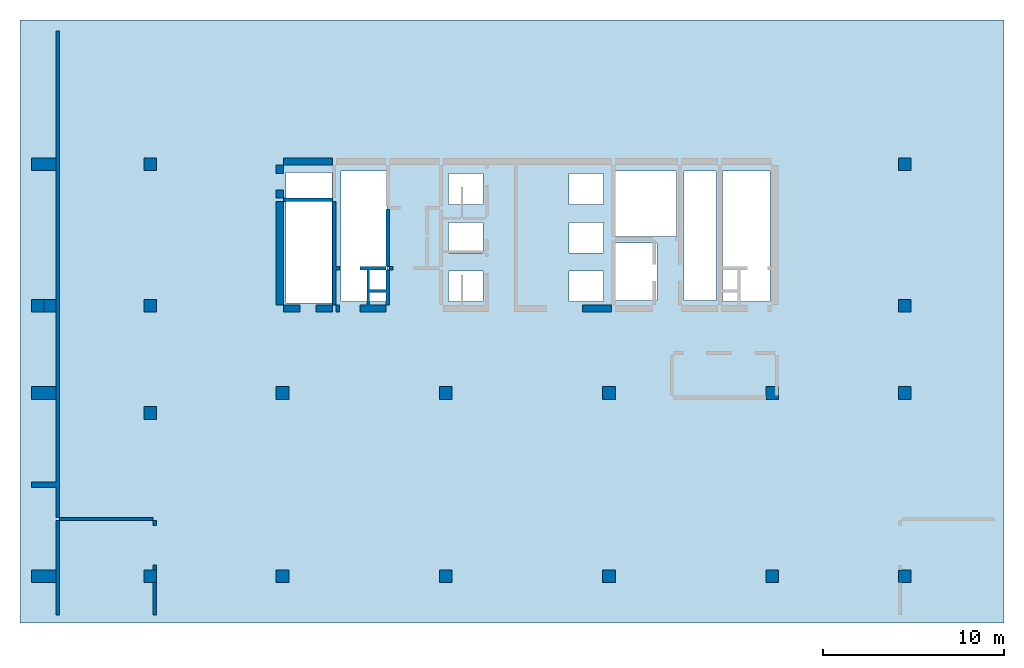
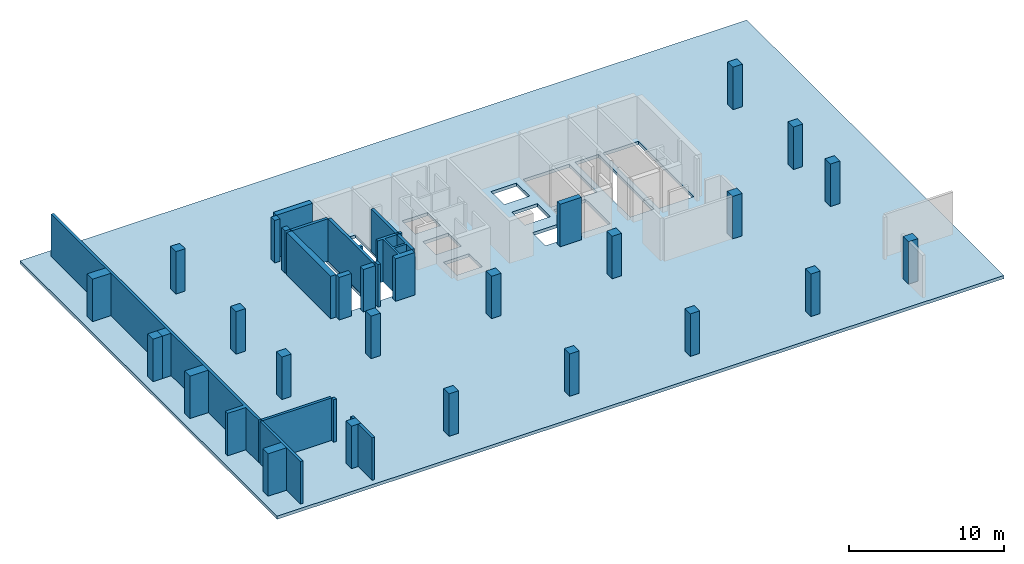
# One storey, part 1 of 2: 21 columns, 19 walls, 1 slab.
"""IFC4 building model written with IfcOpenShell, lengths in millimetres."""

import ifcopenshell
import ifcopenshell.guid

model = None  # the IFC model being written
_history = None  # IfcOwnerHistory: only IFC2X3 demands one
_inside = {}  # id of a spatial element -> (the spatial element, [elements in it])
_under = {}  # id of a project, library or spatial element -> (it, [spatial elements below it])
_declared = {}  # id of a project -> (the project, [libraries it declares])
_typed = {}  # id of a type object -> (the type object, [elements of that type])
_made_of = {}  # id of a material, layer set ... -> (it, [elements and type objects made of it])


def new_model(schema):
    """Start an empty IFC model of exactly this schema.

    Asked for "IFC4X3", IfcOpenShell would pick the latest addendum, in which some entities
    have other attributes; the version numbers below select the first issue.
    IFC2X3 requires an IfcOwnerHistory on every rooted entity: one is made here for all.
    """
    global model, _history
    if schema == "IFC4X3":
        model = ifcopenshell.file(schema_version=(4, 3, 0, 0))
    else:
        model = ifcopenshell.file(schema=schema)
    _inside.clear()
    _under.clear()
    _declared.clear()
    _typed.clear()
    _made_of.clear()
    _history = None
    if model.schema == "IFC2X3":
        org = make("IfcOrganization", Name="unknown")
        user = make(
            "IfcPersonAndOrganization",
            ThePerson=make("IfcPerson", FamilyName="unknown"),
            TheOrganization=org,
        )
        app = make(
            "IfcApplication",
            ApplicationDeveloper=org,
            Version="unknown",
            ApplicationFullName="unknown",
            ApplicationIdentifier="unknown",
        )
        _history = make(
            "IfcOwnerHistory",
            OwningUser=user,
            OwningApplication=app,
            ChangeAction="ADDED",
            CreationDate=0,
        )
    return model


def make(cls, **values):
    """One entity of the class cls with the attributes given. An attribute that is None is left unset."""
    return model.create_entity(
        cls, **{name: value for name, value in values.items() if value is not None}
    )


def rooted(cls, **values):
    """An entity with a GlobalId (a new one), such as an element, a storey or a relation."""
    return make(cls, GlobalId=ifcopenshell.guid.new(), OwnerHistory=_history, **values)


def si_unit(unit_type, name, prefix=None):
    """IfcSIUnit, for example si_unit("LENGTHUNIT", "METRE", prefix="MILLI")."""
    return make("IfcSIUnit", UnitType=unit_type, Prefix=prefix, Name=name)


def assignment(units):
    """IfcUnitAssignment: the units of a project."""
    return None if units is None else make("IfcUnitAssignment", Units=units)


def point(xyz):
    """IfcCartesianPoint."""
    return None if xyz is None else make("IfcCartesianPoint", Coordinates=xyz)


def direction(xyz):
    """IfcDirection."""
    return None if xyz is None else make("IfcDirection", DirectionRatios=xyz)


def frame(location, z_axis=None, x_axis=None):
    """IfcAxis2Placement3D, a coordinate frame: its origin and axes. An axis left out is left unset."""
    return make(
        "IfcAxis2Placement3D",
        Location=point(location),
        Axis=direction(z_axis),
        RefDirection=direction(x_axis),
    )


def origin():
    """The frame at (0, 0, 0) with its axes left unset."""
    return frame((0.0, 0.0, 0.0))


def place(relative_to, where):
    """IfcLocalPlacement: puts the frame where relative to a parent placement (None: the world)."""
    return make(
        "IfcLocalPlacement", PlacementRelTo=relative_to, RelativePlacement=where
    )


def context(
    kind, dimensions, precision=None, world=None, true_north=None, identifier=None
):
    """IfcGeometricRepresentationContext, for example the 3D "Model" context."""
    return make(
        "IfcGeometricRepresentationContext",
        ContextIdentifier=identifier,
        ContextType=kind,
        CoordinateSpaceDimension=dimensions,
        Precision=precision,
        WorldCoordinateSystem=world,
        TrueNorth=true_north,
    )


def project(units=None, contexts=None):
    """IfcProject with its units and contexts."""
    return rooted(
        "IfcProject",
        Name="project",
        RepresentationContexts=contexts,
        UnitsInContext=assignment(units),
    )


def spatial(cls, under=None, at=None, **own):
    """A site, building, storey or space (cls), placed at a placement, below another one or the project."""
    s = rooted(cls, ObjectPlacement=at, **own)
    if under is not None:
        _under.setdefault(under.id(), (under, []))[1].append(s)
    return s


def point_list(points):
    """IfcCartesianPointList2D or 3D."""
    cls = (
        "IfcCartesianPointList2D" if len(points[0]) == 2 else "IfcCartesianPointList3D"
    )
    return make(cls, CoordList=points)


def triangles(points, corners, closed=None, point_numbers=None):
    """IfcTriangulatedFaceSet: each triangle names its three corners, points numbered from 1."""
    return make(
        "IfcTriangulatedFaceSet",
        Coordinates=point_list(points),
        Closed=closed,
        CoordIndex=corners,
        PnIndex=point_numbers,
    )


def shape(context_of_items, identifier, shape_type, items):
    """IfcShapeRepresentation: the items that make up one representation, for example the "Body"."""
    return make(
        "IfcShapeRepresentation",
        ContextOfItems=context_of_items,
        RepresentationIdentifier=identifier,
        RepresentationType=shape_type,
        Items=items,
    )


def made_of(thing, what):
    """Note that an element or type object is made of a material, layer set ...; save() writes the relation."""
    if what is not None:
        _made_of.setdefault(what.id(), (what, []))[1].append(thing)
    return thing


def element(
    cls,
    number,
    at=None,
    inside=None,
    cuts=None,
    type_object=None,
    material=None,
    context=None,
    identifier="Body",
    shape_type=None,
    held_by="IfcProductDefinitionShape",
    body=None,
    shapes=None,
    **own,
):
    """One element of the class cls, such as IfcWall. Its Tag is "e" and its number.

    at: its placement. inside: the storey or other place that contains it. cuts: it is an
    opening in that element (IfcRelVoidsElement). A single representation is given by context,
    identifier, shape_type and body (its items); several are given by shapes. held_by: the class
    of the entity that holds the representations. save() writes the other relations.
    """
    e = rooted(cls, Tag="e%d" % number, ObjectPlacement=at, **own)
    if body is not None:
        shapes = [shape(context, identifier, shape_type, body)]
    if shapes is not None:
        e.Representation = make(held_by, Representations=shapes)
    if inside is not None:
        _inside.setdefault(inside.id(), (inside, []))[1].append(e)
    if cuts is not None:
        rooted(
            "IfcRelVoidsElement", RelatingBuildingElement=cuts, RelatedOpeningElement=e
        )
    if type_object is not None:
        _typed.setdefault(type_object.id(), (type_object, []))[1].append(e)
    return made_of(e, material)


def aggregate(whole, parts):
    """IfcRelAggregates: a whole, such as a stair, and the parts it consists of."""
    return rooted("IfcRelAggregates", RelatingObject=whole, RelatedObjects=parts)


def save(model, path):
    """Write the relations noted so far, then the file.

    IfcRelAggregates (storeys below a building ...), IfcRelContainedInSpatialStructure (elements
    in a storey), IfcRelDefinesByType, IfcRelAssociatesMaterial and IfcRelDeclares: one each for
    every whole, place, type object, material and project.
    """
    for whole, parts in _under.values():
        aggregate(whole, parts)
    for where, things in _inside.values():
        rooted(
            "IfcRelContainedInSpatialStructure",
            RelatedElements=things,
            RelatingStructure=where,
        )
    for kind, things in _typed.values():
        rooted("IfcRelDefinesByType", RelatedObjects=things, RelatingType=kind)
    for what, things in _made_of.values():
        rooted("IfcRelAssociatesMaterial", RelatedObjects=things, RelatingMaterial=what)
    for by, libraries in _declared.values():
        rooted("IfcRelDeclares", RelatingContext=by, RelatedDefinitions=libraries)
    model.write(path)


model = new_model("IFC4")

# Units and contexts
model_context = context("Model", 3, precision=0.001, world=origin())
ifc_project = project(units=[si_unit("LENGTHUNIT", "METRE", prefix="MILLI"), si_unit("AREAUNIT", "SQUARE_METRE"), si_unit("VOLUMEUNIT", "CUBIC_METRE")], contexts=[model_context])

# Site, building, storey
site_placement = place(None, origin())
site = spatial("IfcSite", under=ifc_project, at=site_placement, Name="Site", CompositionType="ELEMENT")
building_placement = place(site_placement, origin())
building = spatial("IfcBuilding", under=site, at=building_placement, Name="INNOCEAN", CompositionType="ELEMENT")
storey_placement = place(building_placement, frame((0.0, 0.0, -12600.0)))
storey = spatial("IfcBuildingStorey", under=building, at=storey_placement, Name="B3", CompositionType="ELEMENT", Elevation=-12600.0)

# Columns
column_1_placement = place(storey_placement, origin())
element("IfcColumn", 1, at=column_1_placement, inside=storey, Name="B3_Columns_B3_001", context=model_context, shape_type="Tessellation", body=[
    triangles([(40114.8, 2023.7, 0.0), (40114.8, 2023.7, 3350.0), (40114.8, 2722.3, 0.0), (40114.8, 2722.3, 3350.0), (40813.0, 2023.7, 3350.0), (40813.0, 2023.7, 0.0), (40813.0, 2722.3, 0.0), (40813.0, 2722.3, 3350.0)], [[1, 2, 3], [3, 2, 4], [5, 6, 7], [5, 7, 8], [6, 5, 1], [1, 5, 2], [8, 7, 3], [8, 3, 4], [3, 7, 1], [1, 7, 6], [8, 4, 2], [8, 2, 5]], closed=True),
])
column_2_placement = place(storey_placement, origin())
element("IfcColumn", 2, at=column_2_placement, inside=storey, Name="B3_Columns_B3_002", context=model_context, shape_type="Tessellation", body=[
    triangles([(5843.1, 24721.0, 0.0), (5843.1, 24721.0, 3350.0), (5843.1, 25419.5, 0.0), (5843.1, 25419.5, 3350.0), (6541.2, 24721.0, 3350.0), (6541.2, 24721.0, 0.0), (6541.2, 25419.5, 0.0), (6541.2, 25419.5, 3350.0)], [[1, 2, 3], [3, 2, 4], [5, 6, 7], [5, 7, 8], [6, 5, 1], [1, 5, 2], [8, 7, 3], [8, 3, 4], [1, 3, 6], [3, 7, 6], [4, 2, 5], [8, 4, 5]], closed=True),
])
column_3_placement = place(storey_placement, origin())
element("IfcColumn", 3, at=column_3_placement, inside=storey, Name="B3_Columns_B3_003", context=model_context, shape_type="Tessellation", body=[
    triangles([(5843.1, 16922.4, 0.0), (5843.1, 16922.4, 3350.0), (5843.1, 17620.9, 0.0), (5843.1, 17620.9, 3350.0), (6541.2, 16922.4, 3350.0), (6541.2, 16922.4, 0.0), (6541.2, 17620.9, 0.0), (6541.2, 17620.9, 3350.0)], [[1, 2, 3], [3, 2, 4], [5, 6, 7], [5, 7, 8], [6, 5, 1], [1, 5, 2], [8, 7, 3], [8, 3, 4], [1, 3, 6], [3, 7, 6], [4, 2, 5], [8, 4, 5]], closed=True),
])
column_4_placement = place(storey_placement, origin())
element("IfcColumn", 4, at=column_4_placement, inside=storey, Name="B3_Columns_B3_004", context=model_context, shape_type="Tessellation", body=[
    triangles([(47413.4, 24721.0, 0.0), (47413.4, 24721.0, 3350.0), (47413.4, 25419.5, 0.0), (47413.4, 25419.5, 3350.0), (48111.6, 24721.0, 3350.0), (48111.6, 24721.0, 0.0), (48111.6, 25419.5, 0.0), (48111.6, 25419.5, 3350.0)], [[1, 2, 3], [3, 2, 4], [5, 6, 7], [5, 7, 8], [6, 5, 1], [1, 5, 2], [8, 7, 3], [8, 3, 4], [1, 3, 6], [3, 7, 6], [4, 2, 5], [8, 4, 5]], closed=True),
])
column_5_placement = place(storey_placement, origin())
element("IfcColumn", 5, at=column_5_placement, inside=storey, Name="B3_Columns_B3_005", context=model_context, shape_type="Tessellation", body=[
    triangles([(47413.4, 16922.4, 0.0), (47413.4, 16922.4, 3350.0), (47413.4, 17620.9, 0.0), (47413.4, 17620.9, 3350.0), (48111.6, 16922.4, 3350.0), (48111.6, 16922.4, 0.0), (48111.6, 17620.9, 0.0), (48111.6, 17620.9, 3350.0)], [[1, 2, 3], [3, 2, 4], [5, 6, 7], [5, 7, 8], [6, 5, 1], [1, 5, 2], [8, 7, 3], [8, 3, 4], [1, 3, 6], [3, 7, 6], [4, 2, 5], [8, 4, 5]], closed=True),
])
column_6_placement = place(storey_placement, origin())
element("IfcColumn", 6, at=column_6_placement, inside=storey, Name="B3_Columns_B3_006", context=model_context, shape_type="Tessellation", body=[
    triangles([(13129.0, 2023.7, 0.0), (13129.0, 2023.7, 3350.0), (13129.0, 2722.3, 0.0), (13129.0, 2722.3, 3350.0), (13827.2, 2023.7, 3350.0), (13827.2, 2023.7, 0.0), (13827.2, 2722.3, 0.0), (13827.2, 2722.3, 3350.0)], [[1, 2, 3], [3, 2, 4], [5, 6, 7], [5, 7, 8], [6, 5, 1], [1, 5, 2], [8, 7, 3], [8, 3, 4], [3, 7, 1], [1, 7, 6], [8, 4, 2], [8, 2, 5]], closed=True),
])
column_7_placement = place(storey_placement, origin())
element("IfcColumn", 7, at=column_7_placement, inside=storey, Name="B3_Columns_B3_007", context=model_context, shape_type="Tessellation", body=[
    triangles([(47413.4, 2023.7, 0.0), (47413.4, 2023.7, 3350.0), (47413.4, 2722.3, 0.0), (47413.4, 2722.3, 3350.0), (48111.6, 2023.7, 3350.0), (48111.6, 2023.7, 0.0), (48111.6, 2722.3, 0.0), (48111.6, 2722.3, 3350.0)], [[1, 2, 3], [3, 2, 4], [5, 6, 7], [5, 7, 8], [6, 5, 1], [1, 5, 2], [8, 7, 3], [8, 3, 4], [3, 7, 1], [1, 7, 6], [8, 4, 2], [8, 2, 5]], closed=True),
])
column_8_placement = place(storey_placement, origin())
element("IfcColumn", 8, at=column_8_placement, inside=storey, Name="B3_Columns_B3_008", context=model_context, shape_type="Tessellation", body=[
    triangles([(13129.0, 12121.3, 0.0), (13129.0, 12121.3, 3350.0), (13129.0, 12819.8, 0.0), (13129.0, 12819.8, 3350.0), (13827.2, 12121.3, 3350.0), (13827.2, 12121.3, 0.0), (13827.2, 12819.8, 0.0), (13827.2, 12819.8, 3350.0)], [[1, 2, 3], [3, 2, 4], [5, 6, 7], [5, 7, 8], [6, 5, 1], [1, 5, 2], [8, 7, 3], [8, 3, 4], [3, 7, 1], [1, 7, 6], [8, 4, 2], [8, 2, 5]], closed=True),
])
column_9_placement = place(storey_placement, origin())
element("IfcColumn", 9, at=column_9_placement, inside=storey, Name="B3_Columns_B3_009", context=model_context, shape_type="Tessellation", body=[
    triangles([(5843.1, 11016.3, 0.0), (5843.1, 11016.3, 3350.0), (5843.1, 11727.5, 0.0), (5843.1, 11727.5, 3350.0), (6541.2, 11016.3, 3350.0), (6541.2, 11016.3, 0.0), (6541.2, 11727.5, 0.0), (6541.2, 11727.5, 3350.0)], [[1, 2, 3], [3, 2, 4], [5, 6, 7], [5, 7, 8], [6, 5, 1], [1, 5, 2], [8, 7, 3], [8, 3, 4], [3, 7, 1], [1, 7, 6], [8, 4, 2], [8, 2, 5]], closed=True),
])
column_10_placement = place(storey_placement, origin())
element("IfcColumn", 10, at=column_10_placement, inside=storey, Name="B3_Columns_B3_010", context=model_context, shape_type="Tessellation", body=[
    triangles([(40114.8, 12121.3, 0.0), (40114.8, 12121.3, 3350.0), (40114.8, 12819.8, 0.0), (40114.8, 12819.8, 3350.0), (40813.0, 12121.3, 3350.0), (40813.0, 12121.3, 0.0), (40813.0, 12819.8, 0.0), (40813.0, 12819.8, 3350.0)], [[1, 2, 3], [3, 2, 4], [5, 6, 7], [5, 7, 8], [6, 5, 1], [1, 5, 2], [8, 7, 3], [8, 3, 4], [1, 3, 6], [3, 7, 6], [4, 2, 5], [8, 4, 5]], closed=True),
])
column_11_placement = place(storey_placement, origin())
element("IfcColumn", 11, at=column_11_placement, inside=storey, Name="B3_Columns_B3_011", context=model_context, shape_type="Tessellation", body=[
    triangles([(47413.4, 12121.3, 0.0), (47413.4, 12121.3, 3350.0), (47413.4, 12819.8, 0.0), (47413.4, 12819.8, 3350.0), (48111.6, 12121.3, 3350.0), (48111.6, 12121.3, 0.0), (48111.6, 12819.8, 0.0), (48111.6, 12819.8, 3350.0)], [[1, 2, 3], [3, 2, 4], [5, 6, 7], [5, 7, 8], [6, 5, 1], [1, 5, 2], [8, 7, 3], [8, 3, 4], [1, 3, 6], [3, 7, 6], [4, 2, 5], [8, 4, 5]], closed=True),
])
column_12_placement = place(storey_placement, origin())
element("IfcColumn", 12, at=column_12_placement, inside=storey, Name="B3_Columns_B3_012", context=model_context, shape_type="Tessellation", body=[
    triangles([(5843.1, 2023.7, 0.0), (5843.1, 2023.7, 3350.0), (5843.1, 2722.3, 0.0), (5843.1, 2722.3, 3350.0), (6541.2, 2023.7, 3350.0), (6541.2, 2023.7, 0.0), (6541.2, 2722.3, 0.0), (6541.2, 2722.3, 3350.0)], [[1, 2, 3], [3, 2, 4], [5, 6, 7], [5, 7, 8], [6, 5, 1], [1, 5, 2], [8, 7, 3], [8, 3, 4], [1, 3, 6], [3, 7, 6], [4, 2, 5], [8, 4, 5]], closed=True),
])
column_13_placement = place(storey_placement, origin())
element("IfcColumn", 13, at=column_13_placement, inside=storey, Name="B3_Columns_B3_013", context=model_context, shape_type="Tessellation", body=[
    triangles([(-363.9, 2023.7, 0.0), (-363.9, 2023.7, 3350.0), (-363.9, 2722.3, 0.0), (-363.9, 2722.3, 3350.0), (994.3, 2023.7, 3350.0), (994.3, 2023.7, 0.0), (994.3, 2722.3, 0.0), (994.3, 2722.3, 3350.0)], [[1, 2, 3], [3, 2, 4], [5, 6, 7], [5, 7, 8], [6, 5, 1], [1, 5, 2], [8, 7, 3], [8, 3, 4], [3, 7, 1], [1, 7, 6], [8, 4, 2], [8, 2, 5]], closed=True),
])
column_14_placement = place(storey_placement, origin())
element("IfcColumn", 14, at=column_14_placement, inside=storey, Name="B3_Columns_B3_014", context=model_context, shape_type="Tessellation", body=[
    triangles([(31128.0, 12121.3, 0.0), (31128.0, 12121.3, 3350.0), (31128.0, 12819.8, 0.0), (31128.0, 12819.8, 3350.0), (31826.2, 12121.3, 3350.0), (31826.2, 12121.3, 0.0), (31826.2, 12819.8, 0.0), (31826.2, 12819.8, 3350.0)], [[1, 2, 3], [3, 2, 4], [5, 6, 7], [5, 7, 8], [6, 5, 1], [1, 5, 2], [8, 7, 3], [8, 3, 4], [3, 7, 1], [1, 7, 6], [8, 4, 2], [8, 2, 5]], closed=True),
])
column_15_placement = place(storey_placement, origin())
element("IfcColumn", 15, at=column_15_placement, inside=storey, Name="B3_Columns_B3_015", context=model_context, shape_type="Tessellation", body=[
    triangles([(22128.5, 12121.3, 0.0), (22128.5, 12121.3, 3350.0), (22128.5, 12819.8, 0.0), (22128.5, 12819.8, 3350.0), (22826.7, 12121.3, 3350.0), (22826.7, 12121.3, 0.0), (22826.7, 12819.8, 0.0), (22826.7, 12819.8, 3350.0)], [[1, 2, 3], [3, 2, 4], [5, 6, 7], [5, 7, 8], [6, 5, 1], [1, 5, 2], [8, 7, 3], [8, 3, 4], [3, 7, 1], [1, 7, 6], [8, 4, 2], [8, 2, 5]], closed=True),
])
column_16_placement = place(storey_placement, origin())
element("IfcColumn", 16, at=column_16_placement, inside=storey, Name="B3_Columns_B3_016", context=model_context, shape_type="Tessellation", body=[
    triangles([(31128.0, 2023.7, 0.0), (31128.0, 2023.7, 3350.0), (31128.0, 2722.3, 0.0), (31128.0, 2722.3, 3350.0), (31826.2, 2023.7, 3350.0), (31826.2, 2023.7, 0.0), (31826.2, 2722.3, 0.0), (31826.2, 2722.3, 3350.0)], [[1, 2, 3], [3, 2, 4], [5, 6, 7], [5, 7, 8], [6, 5, 1], [1, 5, 2], [8, 7, 3], [8, 3, 4], [3, 7, 1], [1, 7, 6], [8, 4, 2], [8, 2, 5]], closed=True),
])
column_17_placement = place(storey_placement, origin())
element("IfcColumn", 17, at=column_17_placement, inside=storey, Name="B3_Columns_B3_017", context=model_context, shape_type="Tessellation", body=[
    triangles([(22128.5, 2023.7, 0.0), (22128.5, 2023.7, 3350.0), (22128.5, 2722.3, 0.0), (22128.5, 2722.3, 3350.0), (22826.7, 2023.7, 3350.0), (22826.7, 2023.7, 0.0), (22826.7, 2722.3, 0.0), (22826.7, 2722.3, 3350.0)], [[1, 2, 3], [3, 2, 4], [5, 6, 7], [5, 7, 8], [6, 5, 1], [1, 5, 2], [8, 7, 3], [8, 3, 4], [3, 7, 1], [1, 7, 6], [8, 4, 2], [8, 2, 5]], closed=True),
])
column_18_placement = place(storey_placement, origin())
element("IfcColumn", 18, at=column_18_placement, inside=storey, Name="B3_Columns_B3_018", context=model_context, shape_type="Tessellation", body=[
    triangles([(-363.9, 16922.4, 0.0), (-363.9, 16922.4, 3350.0), (-363.9, 17620.9, 0.0), (-363.9, 17620.9, 3350.0), (994.3, 16922.4, 3350.0), (994.3, 16922.4, 0.0), (994.3, 17620.9, 0.0), (994.3, 17620.9, 3350.0)], [[1, 2, 3], [3, 2, 4], [5, 6, 7], [5, 7, 8], [6, 5, 1], [1, 5, 2], [8, 7, 3], [8, 3, 4], [3, 7, 1], [1, 7, 6], [8, 4, 2], [8, 2, 5]], closed=True),
])
column_19_placement = place(storey_placement, origin())
element("IfcColumn", 19, at=column_19_placement, inside=storey, Name="B3_Columns_B3_019", context=model_context, shape_type="Tessellation", body=[
    triangles([(-363.9, 24721.0, 0.0), (-363.9, 24721.0, 3350.0), (-363.9, 25419.5, 0.0), (-363.9, 25419.5, 3350.0), (994.3, 24721.0, 3350.0), (994.3, 24721.0, 0.0), (994.3, 25419.5, 0.0), (994.3, 25419.5, 3350.0)], [[1, 2, 3], [3, 2, 4], [5, 6, 7], [5, 7, 8], [6, 5, 1], [1, 5, 2], [8, 7, 3], [8, 3, 4], [3, 7, 1], [1, 7, 6], [8, 4, 2], [8, 2, 5]], closed=True),
])
column_20_placement = place(storey_placement, origin())
element("IfcColumn", 20, at=column_20_placement, inside=storey, Name="B3_Columns_B3_020", context=model_context, shape_type="Tessellation", body=[
    triangles([(-363.9, 12121.3, 0.0), (-363.9, 12121.3, 3350.0), (-363.9, 12819.8, 0.0), (-363.9, 12819.8, 3350.0), (994.3, 12121.3, 3350.0), (994.3, 12121.3, 0.0), (994.3, 12819.8, 0.0), (994.3, 12819.8, 3350.0)], [[1, 2, 3], [3, 2, 4], [5, 6, 7], [5, 7, 8], [6, 5, 1], [1, 5, 2], [8, 7, 3], [8, 3, 4], [3, 7, 1], [1, 7, 6], [8, 4, 2], [8, 2, 5]], closed=True),
])
column_21_placement = place(storey_placement, origin())
element("IfcColumn", 21, at=column_21_placement, inside=storey, Name="B3_Columns_B3_021", context=model_context, shape_type="Tessellation", body=[
    triangles([(-363.9, 16922.4, 0.0), (-363.9, 16922.4, 3350.0), (-363.9, 17620.9, 0.0), (-363.9, 17620.9, 3350.0), (334.3, 16922.4, 3350.0), (334.3, 16922.4, 0.0), (334.3, 17620.9, 0.0), (334.3, 17620.9, 3350.0)], [[1, 2, 3], [3, 2, 4], [5, 6, 7], [5, 7, 8], [6, 5, 1], [1, 5, 2], [8, 7, 3], [8, 3, 4], [3, 7, 1], [1, 7, 6], [8, 4, 2], [8, 2, 5]], closed=True),
])

# Slab
slab_placement = place(storey_placement, origin())
element("IfcSlab", 22, at=slab_placement, inside=storey, Name="B3_Slab_B3_001", context=model_context, shape_type="Tessellation", body=[
    triangles([(-987.250996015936, 33023.3766233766, 0.0), (53241.0358565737, 33023.3766233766, 0.0), (-987.250996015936, 33023.3766233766, -250.0), (53241.0358565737, 33023.3766233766, -250.0), (-987.250996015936, -211.688311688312, 0.0), (-987.250996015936, -211.688311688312, -250.0), (53241.0358565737, -211.688311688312, 0.0), (53241.0358565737, -211.688311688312, -250.0), (34130.6772908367, 20745.4545454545, -250.0), (31733.0677290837, 20745.4545454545, 0.0), (31733.0677290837, 20745.4545454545, -250.0), (34130.6772908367, 20745.4545454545, 0.0), (31733.0677290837, 17570.1298701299, 0.0), (31733.0677290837, 17570.1298701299, -250.0), (34130.6772908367, 17570.1298701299, 0.0), (34130.6772908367, 17570.1298701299, -250.0), (31168.9243027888, 19193.0735930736, 0.0), (29264.9402390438, 19193.0735930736, 0.0), (29264.9402390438, 19193.0735930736, -250.0), (31168.9243027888, 19193.0735930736, -250.0), (31168.9243027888, 17499.5670995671, 0.0), (31168.9243027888, 17499.5670995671, -250.0), (29264.9402390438, 17499.5670995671, 0.0), (29264.9402390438, 17499.5670995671, -250.0), (31168.9243027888, 21874.4588744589, 0.0), (29264.9402390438, 21874.4588744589, 0.0), (29264.9402390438, 21874.4588744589, -250.0), (31168.9243027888, 21874.4588744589, -250.0), (29264.9402390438, 20180.9523809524, 0.0), (29264.9402390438, 20180.9523809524, -250.0), (31168.9243027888, 20180.9523809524, 0.0), (31168.9243027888, 20180.9523809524, -250.0), (24540.2390438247, 19193.0735930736, -250.0), (22636.2549800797, 19193.0735930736, 0.0), (22636.2549800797, 19193.0735930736, -250.0), (24540.2390438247, 19193.0735930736, 0.0), (22636.2549800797, 17499.5670995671, 0.0), (22636.2549800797, 17499.5670995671, -250.0), (24540.2390438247, 17499.5670995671, 0.0), (24540.2390438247, 17499.5670995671, -250.0), (24540.2390438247, 21874.4588744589, -250.0), (22636.2549800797, 21874.4588744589, 0.0), (22636.2549800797, 21874.4588744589, -250.0), (24540.2390438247, 21874.4588744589, 0.0), (22636.2549800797, 20180.9523809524, 0.0), (22636.2549800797, 20180.9523809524, -250.0), (24540.2390438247, 20180.9523809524, 0.0), (24540.2390438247, 20180.9523809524, -250.0), (16219.1235059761, 24626.4069264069, 0.0), (13680.4780876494, 24626.4069264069, 0.0), (13680.4780876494, 24626.4069264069, -250.0), (16219.1235059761, 24626.4069264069, -250.0), (13680.4780876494, 17429.0043290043, 0.0), (13680.4780876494, 17429.0043290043, -250.0), (16219.1235059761, 17429.0043290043, 0.0), (16219.1235059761, 17429.0043290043, -250.0), (40336.2549800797, 24696.9696969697, -250.0), (37727.0916334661, 24696.9696969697, 0.0), (37727.0916334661, 24696.9696969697, -250.0), (40336.2549800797, 24696.9696969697, 0.0), (37727.0916334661, 17499.5670995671, 0.0), (37727.0916334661, 17499.5670995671, -250.0), (40336.2549800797, 17499.5670995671, 0.0), (40336.2549800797, 17499.5670995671, -250.0), (37374.5019920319, 24696.9696969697, 0.0), (35611.5537848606, 24696.9696969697, 0.0), (35611.5537848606, 24696.9696969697, -250.0), (37374.5019920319, 24696.9696969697, -250.0), (35611.5537848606, 17570.1298701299, 0.0), (35611.5537848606, 17570.1298701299, -250.0), (37374.5019920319, 17570.1298701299, 0.0), (37374.5019920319, 17570.1298701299, -250.0), (35188.4462151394, 24696.9696969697, 0.0), (31733.0677290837, 24696.9696969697, 0.0), (31733.0677290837, 24696.9696969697, -250.0), (35188.4462151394, 24696.9696969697, -250.0), (31733.0677290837, 21098.2683982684, 0.0), (31733.0677290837, 21098.2683982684, -250.0), (35188.4462151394, 21098.2683982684, 0.0), (35188.4462151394, 21098.2683982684, -250.0), (31168.9243027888, 24555.8441558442, 0.0), (29264.9402390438, 24555.8441558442, 0.0), (29264.9402390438, 24555.8441558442, -250.0), (31168.9243027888, 24555.8441558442, -250.0), (29264.9402390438, 22862.3376623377, 0.0), (29264.9402390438, 22862.3376623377, -250.0), (31168.9243027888, 22862.3376623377, 0.0), (31168.9243027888, 22862.3376623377, -250.0), (19251.3944223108, 24696.9696969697, 0.0), (16712.7490039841, 24696.9696969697, 0.0), (16712.7490039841, 24696.9696969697, -250.0), (19251.3944223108, 24696.9696969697, -250.0), (16712.7490039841, 17499.5670995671, 0.0), (16712.7490039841, 17499.5670995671, -250.0), (19251.3944223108, 17499.5670995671, 0.0), (19251.3944223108, 17499.5670995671, -250.0), (24540.2390438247, 24555.8441558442, -250.0), (22636.2549800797, 24555.8441558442, 0.0), (22636.2549800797, 24555.8441558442, -250.0), (24540.2390438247, 24555.8441558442, 0.0), (22636.2549800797, 22862.3376623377, 0.0), (22636.2549800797, 22862.3376623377, -250.0), (24540.2390438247, 22862.3376623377, 0.0), (24540.2390438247, 22862.3376623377, -250.0)], [[1, 2, 3], [3, 2, 4], [5, 1, 6], [6, 1, 3], [2, 7, 4], [4, 7, 8], [7, 5, 8], [8, 5, 6], [9, 10, 11], [12, 10, 9], [10, 13, 14], [10, 14, 11], [15, 12, 9], [15, 9, 16], [14, 15, 16], [13, 15, 14], [17, 18, 19], [17, 19, 20], [21, 17, 20], [21, 20, 22], [23, 21, 22], [23, 22, 24], [18, 23, 24], [18, 24, 19], [25, 26, 27], [25, 27, 28], [26, 29, 30], [26, 30, 27], [31, 25, 28], [31, 28, 32], [29, 31, 32], [29, 32, 30], [33, 34, 35], [36, 34, 33], [34, 37, 38], [34, 38, 35], [39, 36, 33], [39, 33, 40], [38, 39, 40], [37, 39, 38], [41, 42, 43], [44, 42, 41], [42, 45, 46], [42, 46, 43], [47, 44, 41], [47, 41, 48], [46, 47, 48], [45, 47, 46], [49, 50, 51], [49, 51, 52], [50, 53, 54], [50, 54, 51], [55, 49, 52], [55, 52, 56], [53, 55, 56], [53, 56, 54], [57, 58, 59], [60, 58, 57], [58, 61, 62], [58, 62, 59], [63, 60, 57], [63, 57, 64], [62, 63, 64], [61, 63, 62], [65, 66, 67], [65, 67, 68], [66, 69, 70], [66, 70, 67], [71, 65, 68], [71, 68, 72], [69, 71, 72], [69, 72, 70], [73, 74, 75], [73, 75, 76], [74, 77, 78], [74, 78, 75], [79, 73, 76], [79, 76, 80], [77, 79, 80], [77, 80, 78], [81, 82, 83], [81, 83, 84], [82, 85, 86], [82, 86, 83], [87, 81, 84], [87, 84, 88], [85, 87, 88], [85, 88, 86], [89, 90, 91], [89, 91, 92], [90, 93, 94], [90, 94, 91], [95, 89, 92], [95, 92, 96], [93, 95, 96], [93, 96, 94], [97, 98, 99], [100, 98, 97], [98, 101, 102], [98, 102, 99], [103, 100, 97], [103, 97, 104], [102, 103, 104], [101, 103, 102], [63, 61, 7], [7, 2, 63], [71, 69, 61], [61, 69, 7], [69, 15, 7], [2, 60, 63], [13, 21, 15], [15, 21, 7], [79, 12, 69], [69, 12, 15], [2, 58, 60], [2, 65, 58], [13, 17, 21], [21, 23, 7], [17, 10, 31], [2, 66, 65], [12, 77, 10], [10, 77, 31], [2, 73, 66], [66, 73, 79], [31, 18, 17], [77, 25, 31], [31, 29, 18], [77, 87, 25], [23, 39, 7], [2, 74, 73], [74, 81, 87], [87, 85, 25], [25, 85, 26], [23, 36, 39], [18, 36, 23], [74, 82, 81], [29, 47, 18], [18, 47, 36], [26, 44, 29], [29, 44, 47], [47, 45, 36], [36, 45, 34], [34, 95, 37], [45, 95, 34], [85, 103, 26], [26, 103, 44], [82, 103, 85], [45, 42, 95], [103, 42, 44], [82, 100, 103], [103, 101, 42], [39, 5, 7], [37, 5, 39], [95, 5, 37], [95, 55, 5], [93, 55, 95], [55, 53, 5], [101, 89, 42], [42, 89, 95], [98, 89, 101], [90, 49, 93], [93, 49, 55], [90, 50, 49], [50, 1, 53], [89, 1, 90], [53, 1, 5], [90, 1, 50], [2, 1, 74], [74, 1, 82], [82, 1, 100], [100, 1, 98], [98, 1, 89], [13, 10, 17], [69, 66, 79], [65, 71, 58], [58, 71, 61], [77, 74, 87], [79, 77, 12], [62, 64, 8], [4, 8, 64], [70, 72, 62], [70, 62, 8], [16, 70, 8], [57, 4, 64], [22, 14, 16], [22, 16, 8], [9, 80, 70], [9, 70, 16], [59, 4, 57], [68, 4, 59], [20, 14, 22], [24, 22, 8], [11, 20, 32], [67, 4, 68], [78, 9, 11], [78, 11, 32], [76, 4, 67], [76, 67, 80], [19, 32, 20], [28, 78, 32], [30, 32, 19], [88, 78, 28], [40, 24, 8], [75, 4, 76], [84, 75, 88], [86, 88, 28], [86, 28, 27], [33, 24, 40], [33, 19, 24], [83, 75, 84], [48, 30, 19], [48, 19, 33], [41, 27, 30], [41, 30, 48], [46, 48, 33], [46, 33, 35], [96, 35, 38], [96, 46, 35], [104, 86, 27], [104, 27, 41], [104, 83, 86], [43, 46, 96], [43, 104, 41], [97, 83, 104], [102, 104, 43], [6, 40, 8], [6, 38, 40], [6, 96, 38], [56, 96, 6], [56, 94, 96], [54, 56, 6], [92, 102, 43], [92, 43, 96], [92, 99, 102], [52, 91, 94], [52, 94, 56], [51, 91, 52], [3, 51, 54], [3, 92, 91], [3, 54, 6], [3, 91, 51], [3, 4, 75], [3, 75, 83], [3, 83, 97], [3, 97, 99], [3, 99, 92], [11, 14, 20], [67, 70, 80], [72, 68, 59], [72, 59, 62], [75, 78, 88], [78, 80, 9]], closed=True),
])

# Walls
wall_1_placement = place(storey_placement, origin())
element("IfcWall", 23, at=wall_1_placement, inside=storey, Name="B3_Walls_B3_001", context=model_context, shape_type="Tessellation", body=[
    triangles([(6338.1, 2023.7, 0.0), (6338.1, 220.2, 0.0), (6338.1, 220.2, 3350.0), (6338.1, 2023.7, 3350.0), (6541.2, 2023.7, 0.0), (6541.2, 2023.7, 3350.0), (6541.2, 220.2, 0.0), (6541.2, 220.2, 3350.0)], [[1, 2, 3], [1, 3, 4], [5, 1, 4], [5, 4, 6], [7, 5, 6], [7, 6, 8], [2, 7, 8], [2, 8, 3], [1, 5, 7], [1, 7, 2], [6, 4, 8], [8, 4, 3]], closed=True),
])
wall_2_placement = place(storey_placement, origin())
element("IfcWall", 24, at=wall_2_placement, inside=storey, Name="B3_Walls_B3_002", context=model_context, shape_type="Tessellation", body=[
    triangles([(1184.7, 220.2, 0.0), (1184.7, 5427.7, 0.0), (1184.7, 5427.7, 3350.0), (1184.7, 220.2, 3350.0), (994.3, 220.2, 0.0), (994.3, 220.2, 3350.0), (994.3, 5427.7, 0.0), (994.3, 5427.7, 3350.0)], [[1, 2, 3], [1, 3, 4], [5, 1, 4], [5, 4, 6], [7, 5, 6], [7, 6, 8], [2, 7, 8], [2, 8, 3], [7, 2, 1], [7, 1, 5], [3, 8, 4], [4, 8, 6]], closed=True),
])
wall_3_placement = place(storey_placement, origin())
element("IfcWall", 25, at=wall_3_placement, inside=storey, Name="B3_Walls_B3_003", context=model_context, shape_type="Tessellation", body=[
    triangles([(6338.1, 2976.3, 0.0), (6338.1, 2722.3, 0.0), (6338.1, 2722.3, 3350.0), (6338.1, 2976.3, 3350.0), (6541.2, 2976.3, 0.0), (6541.2, 2976.3, 3350.0), (6541.2, 2722.3, 0.0), (6541.2, 2722.3, 3350.0)], [[1, 2, 3], [1, 3, 4], [5, 1, 4], [5, 4, 6], [7, 5, 6], [7, 6, 8], [2, 7, 8], [2, 8, 3], [5, 7, 2], [1, 5, 2], [8, 6, 3], [6, 4, 3]], closed=True),
])
wall_4_placement = place(storey_placement, origin())
element("IfcWall", 26, at=wall_4_placement, inside=storey, Name="B3_Walls_B3_004", context=model_context, shape_type="Tessellation", body=[
    triangles([(6541.2, 5173.7, 0.0), (6541.2, 5427.7, 0.0), (6541.2, 5427.7, 3350.0), (6541.2, 5173.7, 3350.0), (6338.1, 5173.7, 0.0), (6338.1, 5173.7, 3350.0), (6338.1, 5427.7, 0.0), (6338.1, 5427.7, 3350.0)], [[1, 2, 3], [1, 3, 4], [5, 1, 4], [5, 4, 6], [7, 5, 6], [7, 6, 8], [2, 7, 8], [2, 8, 3], [2, 1, 5], [7, 2, 5], [4, 3, 6], [3, 8, 6]], closed=True),
])
wall_5_placement = place(storey_placement, origin())
element("IfcWall", 27, at=wall_5_placement, inside=storey, Name="B3_Walls_B3_005", context=model_context, shape_type="Tessellation", body=[
    triangles([(6338.1, 5427.7, 0.0), (6338.1, 5618.2, 0.0), (6338.1, 5618.2, 3350.0), (6338.1, 5427.7, 3350.0), (1184.7, 5427.7, 0.0), (1184.7, 5427.7, 3350.0), (1184.7, 5618.2, 0.0), (1184.7, 5618.2, 3350.0)], [[1, 2, 3], [1, 3, 4], [5, 1, 4], [5, 4, 6], [7, 5, 6], [7, 6, 8], [2, 7, 8], [2, 8, 3], [7, 2, 1], [7, 1, 5], [3, 8, 4], [4, 8, 6]], closed=True),
])
wall_6_placement = place(storey_placement, origin())
element("IfcWall", 28, at=wall_6_placement, inside=storey, Name="B3_Walls_B3_006", context=model_context, shape_type="Tessellation", body=[
    triangles([(994.3, 7575.0, 0.0), (-365.0, 7575.0, 0.0), (-365.0, 7575.0, 3350.0), (994.3, 7575.0, 3350.0), (994.3, 32417.9, 0.0), (994.3, 32417.9, 3350.0), (1184.7, 32417.9, 0.0), (1184.7, 32417.9, 3350.0), (1184.7, 5618.2, 0.0), (1184.7, 5618.2, 3350.0), (994.3, 5618.2, 0.0), (994.3, 5618.2, 3350.0), (994.3, 7269.4, 0.0), (994.3, 7269.4, 3350.0), (-363.9, 7269.4, 0.0), (-363.9, 7269.4, 3350.0), (-363.9, 7270.0, 0.0), (-363.9, 7270.0, 3350.0), (-365.0, 7270.0, 0.0), (-365.0, 7270.0, 3350.0)], [[1, 2, 3], [1, 3, 4], [5, 1, 4], [5, 4, 6], [7, 5, 6], [7, 6, 8], [9, 7, 8], [9, 8, 10], [11, 9, 10], [11, 10, 12], [13, 11, 12], [13, 12, 14], [15, 13, 14], [15, 14, 16], [17, 15, 16], [17, 16, 18], [19, 17, 18], [19, 18, 20], [2, 19, 20], [2, 20, 3], [13, 9, 11], [1, 9, 13], [17, 13, 15], [17, 1, 13], [2, 17, 19], [2, 1, 17], [5, 7, 1], [7, 9, 1], [10, 14, 12], [10, 4, 14], [14, 18, 16], [4, 18, 14], [18, 3, 20], [4, 3, 18], [8, 6, 4], [10, 8, 4]], closed=True),
])
wall_7_placement = place(storey_placement, origin())
element("IfcWall", 29, at=wall_7_placement, inside=storey, Name="B3_Walls_B3_007", context=model_context, shape_type="Tessellation", body=[
    triangles([(14436.4, 16922.4, 0.0), (14436.4, 17316.1, 0.0), (14436.4, 17316.1, 3350.0), (14436.4, 16922.4, 3350.0), (13535.2, 16922.4, 0.0), (13535.2, 16922.4, 3350.0), (13535.2, 17316.1, 0.0), (13535.2, 17316.1, 3350.0)], [[1, 2, 3], [1, 3, 4], [5, 1, 4], [5, 4, 6], [7, 5, 6], [7, 6, 8], [2, 7, 8], [2, 8, 3], [7, 2, 1], [7, 1, 5], [3, 8, 4], [4, 8, 6]], closed=True),
])
wall_8_placement = place(storey_placement, origin())
element("IfcWall", 30, at=wall_8_placement, inside=storey, Name="B3_Walls_B3_008", context=model_context, shape_type="Tessellation", body=[
    triangles([(16226.2, 16922.4, 0.0), (16226.2, 17316.1, 0.0), (16226.2, 17316.1, 3350.0), (16226.2, 16922.4, 3350.0), (15337.6, 16922.4, 0.0), (15337.6, 16922.4, 3350.0), (15337.6, 17316.1, 0.0), (15337.6, 17316.1, 3350.0)], [[1, 2, 3], [1, 3, 4], [5, 1, 4], [5, 4, 6], [7, 5, 6], [7, 6, 8], [2, 7, 8], [2, 8, 3], [7, 2, 1], [7, 1, 5], [3, 8, 4], [4, 8, 6]], closed=True),
])
wall_9_placement = place(storey_placement, origin())
element("IfcWall", 31, at=wall_9_placement, inside=storey, Name="B3_Walls_B3_009", context=model_context, shape_type="Tessellation", body=[
    triangles([(16632.4, 16922.4, 0.0), (16632.4, 17316.1, 0.0), (16632.4, 17316.1, 3350.0), (16632.4, 16922.4, 3350.0), (16429.3, 16922.4, 0.0), (16429.3, 16922.4, 3350.0), (16429.3, 17316.1, 0.0), (16429.3, 17316.1, 3350.0)], [[1, 2, 3], [1, 3, 4], [5, 1, 4], [5, 4, 6], [7, 5, 6], [7, 6, 8], [2, 7, 8], [2, 8, 3], [7, 2, 1], [7, 1, 5], [3, 8, 4], [4, 8, 6]], closed=True),
])
wall_10_placement = place(storey_placement, origin())
element("IfcWall", 32, at=wall_10_placement, inside=storey, Name="B3_Walls_B3_010", context=model_context, shape_type="Tessellation", body=[
    triangles([(19183.7, 19449.9, 0.0), (17749.4, 19449.9, 0.0), (17749.4, 19449.9, 3350.0), (19183.7, 19449.9, 3350.0), (17749.4, 19246.7, 0.0), (17749.4, 19246.7, 3350.0), (18130.2, 19246.7, 0.0), (18130.2, 19246.7, 3350.0), (18130.2, 19245.0, 0.0), (18130.2, 19245.0, 3350.0), (18130.0, 19245.0, 0.0), (18130.0, 19245.0, 3350.0), (18130.0, 17316.1, 0.0), (18130.0, 17316.1, 3350.0), (17749.4, 17316.1, 0.0), (17749.4, 17316.1, 3350.0), (17749.4, 16922.4, 0.0), (17749.4, 16922.4, 3350.0), (19183.7, 16922.4, 0.0), (19183.7, 16922.4, 3350.0), (19183.7, 17316.1, 0.0), (19183.7, 17316.1, 3350.0), (19374.1, 17316.1, 0.0), (19374.1, 17316.1, 3350.0), (19374.1, 19246.7, 0.0), (19374.1, 19246.7, 3350.0), (19183.7, 19246.7, 0.0), (19183.7, 19246.7, 3350.0), (18282.5, 17316.1, 0.0), (18282.5, 17316.1, 3350.0), (18282.5, 18014.7, 0.0), (18282.5, 18014.7, 3350.0), (19183.7, 18014.7, 0.0), (19183.7, 18014.7, 3350.0), (19183.7, 18167.1, 0.0), (19183.7, 18167.1, 3350.0), (18282.5, 18167.1, 0.0), (18282.5, 18167.1, 3350.0), (18282.5, 19246.7, 0.0), (18282.5, 19246.7, 3350.0)], [[1, 2, 3], [1, 3, 4], [2, 5, 6], [2, 6, 3], [5, 7, 8], [5, 8, 6], [7, 9, 10], [7, 10, 8], [9, 11, 12], [9, 12, 10], [11, 13, 14], [11, 14, 12], [13, 15, 16], [13, 16, 14], [15, 17, 18], [15, 18, 16], [17, 19, 20], [17, 20, 18], [19, 21, 22], [19, 22, 20], [21, 23, 24], [21, 24, 22], [25, 26, 24], [23, 25, 24], [25, 27, 28], [25, 28, 26], [27, 1, 4], [27, 4, 28], [21, 29, 30], [21, 30, 22], [29, 31, 32], [29, 32, 30], [31, 33, 34], [31, 34, 32], [33, 21, 22], [33, 22, 34], [27, 35, 36], [27, 36, 28], [35, 37, 38], [35, 38, 36], [37, 39, 40], [37, 40, 38], [39, 27, 28], [39, 28, 40], [33, 23, 21], [35, 23, 33], [29, 21, 19], [17, 29, 19], [13, 29, 17], [15, 13, 17], [31, 35, 33], [31, 29, 13], [25, 23, 35], [37, 35, 31], [27, 25, 35], [39, 1, 27], [9, 39, 37], [11, 9, 37], [7, 39, 9], [2, 7, 5], [2, 1, 39], [2, 39, 7], [13, 11, 37], [13, 37, 31], [24, 34, 22], [24, 36, 34], [22, 30, 20], [30, 18, 20], [30, 14, 18], [14, 16, 18], [36, 32, 34], [30, 32, 14], [24, 26, 36], [36, 38, 32], [26, 28, 36], [4, 40, 28], [40, 10, 38], [10, 12, 38], [40, 8, 10], [8, 3, 6], [4, 3, 40], [40, 3, 8], [12, 14, 38], [38, 14, 32]], closed=True),
])
wall_11_placement = place(storey_placement, origin())
element("IfcWall", 33, at=wall_11_placement, inside=storey, Name="B3_Walls_B3_011", context=model_context, shape_type="Tessellation", body=[
    triangles([(16429.3, 23019.0, 0.0), (16226.2, 23019.0, 0.0), (16226.2, 23019.0, 3350.0), (16429.3, 23019.0, 3350.0), (16429.3, 19449.9, 0.0), (16429.3, 19449.9, 3350.0), (16632.4, 19449.9, 0.0), (16632.4, 19449.9, 3350.0), (16632.4, 19246.7, 0.0), (16632.4, 19246.7, 3350.0), (16429.3, 19246.7, 0.0), (16429.3, 19246.7, 3350.0), (16429.3, 17316.1, 3350.0), (16429.3, 17316.1, 0.0), (16226.2, 17316.1, 0.0), (16226.2, 17316.1, 3350.0), (16226.2, 19246.7, 3350.0), (16226.2, 19246.7, 0.0), (16226.2, 19449.9, 0.0), (16226.2, 19449.9, 3350.0)], [[1, 2, 3], [1, 3, 4], [5, 1, 4], [5, 4, 6], [7, 5, 6], [7, 6, 8], [9, 7, 8], [9, 8, 10], [11, 9, 10], [11, 10, 12], [11, 12, 13], [14, 11, 13], [15, 14, 13], [15, 13, 16], [15, 16, 17], [18, 15, 17], [19, 18, 17], [19, 17, 20], [2, 19, 20], [2, 20, 3], [18, 11, 14], [18, 14, 15], [5, 7, 9], [5, 9, 11], [19, 5, 11], [19, 11, 18], [1, 5, 19], [2, 1, 19], [12, 17, 13], [13, 17, 16], [8, 6, 10], [10, 6, 12], [6, 20, 12], [12, 20, 17], [6, 4, 20], [4, 3, 20]], closed=True),
])
wall_12_placement = place(storey_placement, origin())
element("IfcWall", 34, at=wall_12_placement, inside=storey, Name="B3_Walls_B3_012", context=model_context, shape_type="Tessellation", body=[
    triangles([(13129.0, 23019.0, 0.0), (13129.0, 17316.1, 0.0), (13129.0, 17316.1, 3350.0), (13129.0, 23019.0, 3350.0), (13535.2, 23019.0, 0.0), (13535.2, 23019.0, 3350.0), (13535.2, 17316.1, 0.0), (13535.2, 17316.1, 3350.0)], [[1, 2, 3], [1, 3, 4], [5, 1, 4], [5, 4, 6], [7, 5, 6], [7, 6, 8], [2, 7, 8], [2, 8, 3], [1, 5, 7], [1, 7, 2], [6, 4, 8], [8, 4, 3]], closed=True),
])
wall_13_placement = place(storey_placement, origin())
element("IfcWall", 35, at=wall_13_placement, inside=storey, Name="B3_Walls_B3_013", context=model_context, shape_type="Tessellation", body=[
    triangles([(16226.2, 23019.0, 0.0), (16226.2, 23222.2, 0.0), (16226.2, 23222.2, 3350.0), (16226.2, 23019.0, 3350.0), (13535.2, 23019.0, 0.0), (13535.2, 23019.0, 3350.0), (13535.2, 23222.2, 0.0), (13535.2, 23222.2, 3350.0)], [[1, 2, 3], [1, 3, 4], [5, 1, 4], [5, 4, 6], [7, 5, 6], [7, 6, 8], [2, 7, 8], [2, 8, 3], [7, 2, 1], [7, 1, 5], [3, 8, 4], [4, 8, 6]], closed=True),
])
wall_14_placement = place(storey_placement, origin())
element("IfcWall", 36, at=wall_14_placement, inside=storey, Name="B3_Walls_B3_014", context=model_context, shape_type="Tessellation", body=[
    triangles([(13535.2, 23222.2, 0.0), (13535.2, 23666.8, 0.0), (13535.2, 23666.8, 3350.0), (13535.2, 23222.2, 3350.0), (13129.0, 23222.2, 0.0), (13129.0, 23222.2, 3350.0), (13129.0, 23666.8, 0.0), (13129.0, 23666.8, 3350.0)], [[1, 2, 3], [1, 3, 4], [5, 1, 4], [5, 4, 6], [7, 5, 6], [7, 6, 8], [2, 7, 8], [2, 8, 3], [7, 2, 1], [7, 1, 5], [3, 8, 4], [4, 8, 6]], closed=True),
])
wall_15_placement = place(storey_placement, origin())
element("IfcWall", 37, at=wall_15_placement, inside=storey, Name="B3_Walls_B3_016", context=model_context, shape_type="Tessellation", body=[
    triangles([(13535.2, 25025.8, 0.0), (13129.0, 25025.8, 0.0), (13129.0, 25025.8, 3350.0), (13535.2, 25025.8, 3350.0), (13535.2, 24568.5, 0.0), (13535.2, 24568.5, 3350.0), (13129.0, 24568.5, 0.0), (13129.0, 24568.5, 3350.0)], [[1, 2, 3], [1, 3, 4], [5, 1, 4], [5, 4, 6], [7, 5, 6], [7, 6, 8], [2, 7, 8], [2, 8, 3], [2, 1, 5], [2, 5, 7], [4, 3, 6], [6, 3, 8]], closed=True),
])
wall_16_placement = place(storey_placement, origin())
element("IfcWall", 38, at=wall_16_placement, inside=storey, Name="B3_Walls_B3_017", context=model_context, shape_type="Tessellation", body=[
    triangles([(13535.2, 25025.8, 0.0), (16226.2, 25025.8, 0.0), (16226.2, 25025.8, 3350.0), (13535.2, 25025.8, 3350.0), (13535.2, 25419.5, 0.0), (13535.2, 25419.5, 3350.0), (16226.2, 25419.5, 0.0), (16226.2, 25419.5, 3350.0)], [[1, 2, 3], [1, 3, 4], [5, 1, 4], [5, 4, 6], [7, 5, 6], [7, 6, 8], [2, 7, 8], [2, 8, 3], [1, 7, 2], [5, 7, 1], [8, 4, 3], [8, 6, 4]], closed=True),
])
wall_17_placement = place(storey_placement, origin())
element("IfcWall", 39, at=wall_17_placement, inside=storey, Name="B3_Walls_B3_021", context=model_context, shape_type="Tessellation", body=[
    triangles([(19577.2, 19246.7, 0.0), (19577.2, 19449.9, 0.0), (19577.2, 19449.9, 3350.0), (19577.2, 19246.7, 3350.0), (19374.1, 19246.7, 0.0), (19374.1, 19246.7, 3350.0), (19374.1, 19449.9, 0.0), (19374.1, 19449.9, 3350.0)], [[1, 2, 3], [1, 3, 4], [5, 1, 4], [5, 4, 6], [7, 5, 6], [7, 6, 8], [2, 7, 8], [2, 8, 3], [7, 2, 1], [7, 1, 5], [3, 8, 4], [4, 8, 6]], closed=True),
])
wall_18_placement = place(storey_placement, origin())
element("IfcWall", 40, at=wall_18_placement, inside=storey, Name="B3_Walls_B3_025", context=model_context, shape_type="Tessellation", body=[
    triangles([(19374.1, 19449.9, 0.0), (19374.1, 22574.4, 0.0), (19374.1, 22574.4, 3350.0), (19374.1, 19449.9, 3350.0), (19183.7, 19449.9, 0.0), (19183.7, 19449.9, 3350.0), (19183.7, 22574.4, 0.0), (19183.7, 22574.4, 3350.0)], [[1, 2, 3], [1, 3, 4], [5, 1, 4], [5, 4, 6], [7, 5, 6], [7, 6, 8], [2, 7, 8], [2, 8, 3], [2, 1, 5], [7, 2, 5], [4, 3, 6], [3, 8, 6]], closed=True),
])
wall_19_placement = place(storey_placement, origin())
element("IfcWall", 41, at=wall_19_placement, inside=storey, Name="B3_Walls_B3_037", context=model_context, shape_type="Tessellation", body=[
    triangles([(31623.1, 16922.4, 0.0), (31623.1, 17316.1, 0.0), (31623.1, 17316.1, 3350.0), (31623.1, 16922.4, 3350.0), (30023.7, 16922.4, 0.0), (30023.7, 16922.4, 3350.0), (30023.7, 17316.1, 0.0), (30023.7, 17316.1, 3350.0)], [[1, 2, 3], [1, 3, 4], [5, 1, 4], [5, 4, 6], [7, 5, 6], [7, 6, 8], [2, 7, 8], [2, 8, 3], [7, 2, 1], [7, 1, 5], [3, 8, 4], [4, 8, 6]], closed=True),
])

save(model, "model.ifc")
